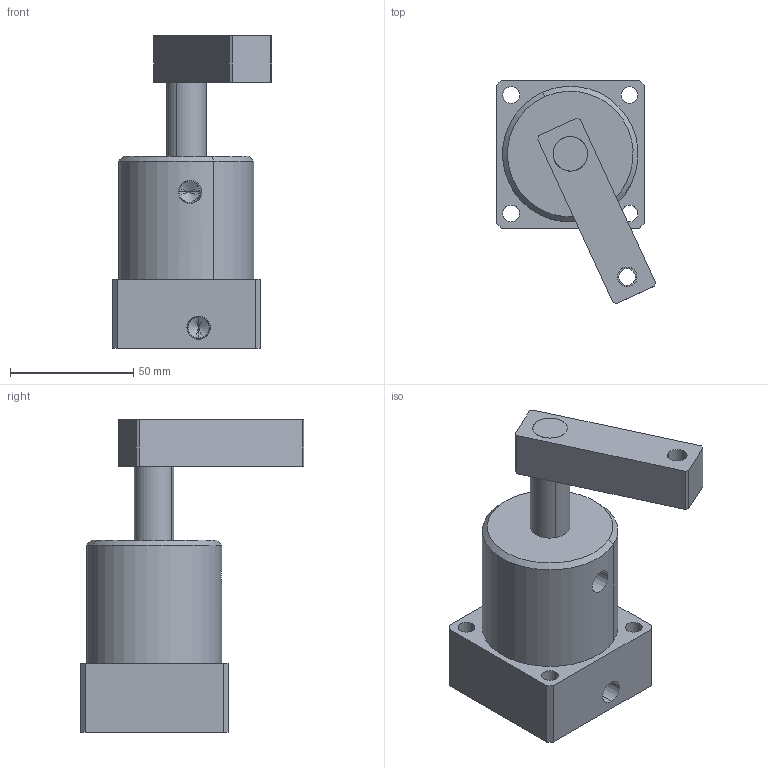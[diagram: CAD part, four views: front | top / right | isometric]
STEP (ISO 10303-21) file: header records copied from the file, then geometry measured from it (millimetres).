
FILE_DESCRIPTION (( 'STEP AP203' ), '1' );
FILE_NAME ('One side clamp ø40.STEP', '2010-02-18T14:23:22', ( 'Christophe Gaillard' ), ( 'SGA' ), 'SwSTEP 2.0', 'SolidWorks 2007', '' );
FILE_SCHEMA (( 'CONFIG_CONTROL_DESIGN' ));
Length unit declared in the file: millimetre
Products named in the file (6): Base One clamp ø40_Défaut; One side clamp ø40; Bride One-clamp ø32_Défaut; Corps One-clamp ø40_Défaut; Fix Tige-Clamp ø40_Défaut; Tige one-clamp ø40_Défaut
Assembly tree (5 placements, depth 2):
  One side clamp ø40
    Tige one-clamp ø40_Défaut
    Bride One-clamp ø32_Défaut
    Corps One-clamp ø40_Défaut
    Fix Tige-Clamp ø40_Défaut
    Base One clamp ø40_Défaut
Bounding box: 64.6 x 90.77 x 127 mm (x, y, z)
Volume: 244885.5 mm3; surface area: 48088.9 mm2
Topology: 5 solids, 5 shells, 85 faces, 194 edges, 123 vertices
Faces by surface type: cylinder 38, plane 33, cone 14
Entity records: 3098 total; most frequent: CARTESIAN_POINT 470, DIRECTION 458, ORIENTED_EDGE 376, EDGE_CURVE 188, AXIS2_PLACEMENT_3D 179, VERTEX_POINT 123, EDGE_LOOP 111, VECTOR 100
